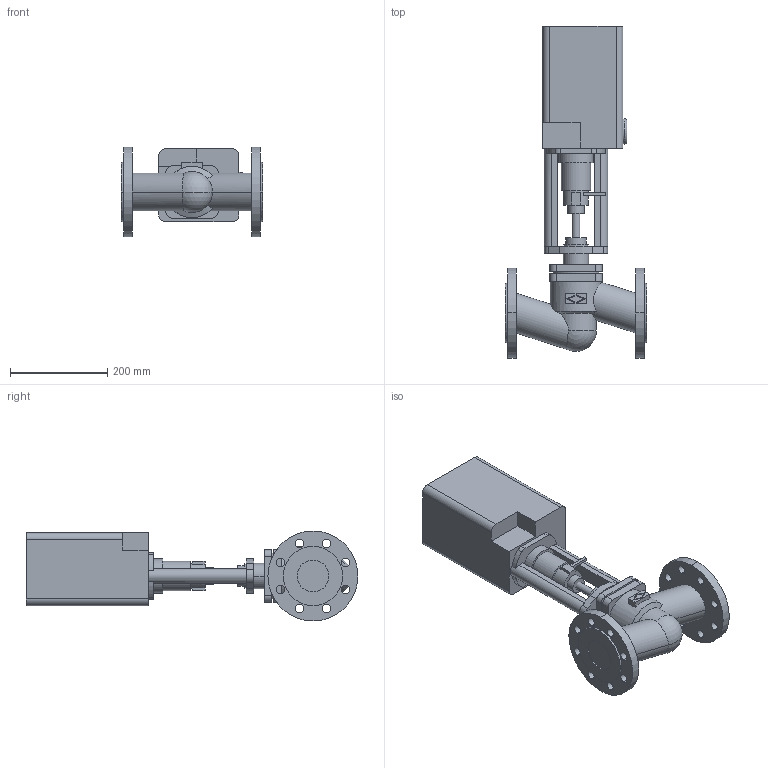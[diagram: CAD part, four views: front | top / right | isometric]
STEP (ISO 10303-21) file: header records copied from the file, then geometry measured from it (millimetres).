
FILE_DESCRIPTION(('OneSpaceDesigner STEP Export'),'2;1');
FILE_NAME('c000001171.stp','2005-02-16T12:04:31',(''),(''),'OneSpace Designer STEP processor (Jan. 2003) for AP203(Solid Model)','OneSpace Designer 12.01D 09-Jul-2004 (C) CoCreate Software GmbH','');
FILE_SCHEMA(('CONFIG_CONTROL_DESIGN'));
Length unit declared in the file: millimetre
Products named in the file (2): 1; 2
Bounding box: 290 x 682.5 x 185 mm (x, y, z)
Volume: 10045490.5 mm3; surface area: 537160.7 mm2
Topology: 2 solids, 2 shells, 190 faces, 491 edges, 326 vertices
Faces by surface type: cylinder 98, plane 86, cone 2, sphere 2, torus 2
Entity records: 5798 total; most frequent: CARTESIAN_POINT 1192, ORIENTED_EDGE 978, DIRECTION 842, EDGE_CURVE 489, VERTEX_POINT 326, AXIS2_PLACEMENT_3D 293, VECTOR 256, LINE 256
